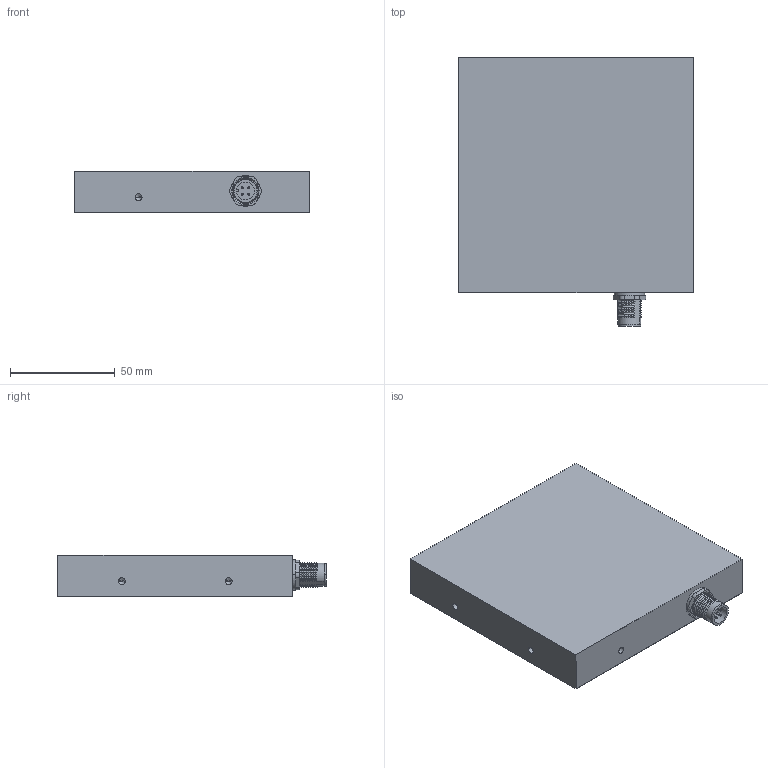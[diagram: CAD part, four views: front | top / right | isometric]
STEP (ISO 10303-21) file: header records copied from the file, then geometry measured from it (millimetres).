
FILE_DESCRIPTION (( 'STEP AP214' ), '1' );
FILE_NAME ('SBACK II 100x100.STEP', '2013-03-07T10:25:57', ( ' ' ), ( '' ), 'SwSTEP 2.0', 'SolidWorks 2009', '' );
FILE_SCHEMA (( 'AUTOMOTIVE_DESIGN' ));
Length unit declared in the file: millimetre
Products named in the file (1): SBACK II 100x100
Bounding box: 112 x 128 x 20 mm (x, y, z)
Volume: 178252.3 mm3; surface area: 65323.7 mm2
Topology: 2 solids, 9 shells, 329 faces, 856 edges, 520 vertices
Faces by surface type: cylinder 114, plane 105, cone 56, bspline 46, sphere 8
Entity records: 30678 total; most frequent: CARTESIAN_POINT 19847, ORIENTED_EDGE 1608, DIRECTION 1399, EDGE_CURVE 804, VERTEX_POINT 512, AXIS2_PLACEMENT_3D 496, LINE 407, VECTOR 407
